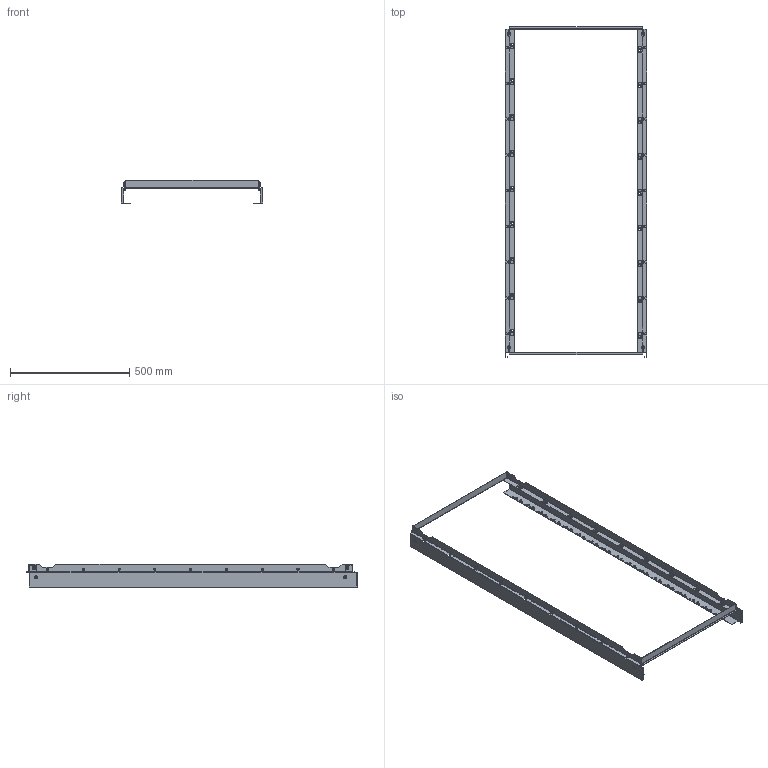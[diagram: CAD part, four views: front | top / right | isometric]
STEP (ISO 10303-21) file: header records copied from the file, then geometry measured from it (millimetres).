
FILE_DESCRIPTION (( 'STEP AP203' ), '1' );
FILE_NAME ('R5STMF146.STEP', '2022-04-13T09:40:58', ( '' ), ( '' ), 'SwSTEP 2.0', 'SolidWorks 2020', '' );
FILE_SCHEMA (( 'CONFIG_CONTROL_DESIGN' ));
Length unit declared in the file: millimetre
Products named in the file (11): M4x8 DIN 965 PH cl.4,8 Zinc_straight; RB.2134.00.00.0_-15; R5STMF146; M6 DIN 6923 cl.8,0 Zinc_straight; M6x12 DIN 965 PH cl.4,8 Zinc_stright; RB.2136.00.00.0_-03; M6 A3400002 Zinc_straight; RB.2135.00.01.0_-07; M4 MGR-MKO-0420_straight; RB.2134.00.00.0_-07; RB.2135.00.00.0 捘_-07
Assembly tree (46 placements, depth 3):
  R5STMF146
    RB.2134.00.00.0_-07
    RB.2135.00.00.0 捘_-07  x2
      RB.2135.00.01.0_-07
      M4 MGR-MKO-0420_straight
    RB.2136.00.00.0_-03  x2
    RB.2134.00.00.0_-15
    M6 A3400002 Zinc_straight  x4
    M6x12 DIN 965 PH cl.4,8 Zinc_stright  x4
    M4x8 DIN 965 PH cl.4,8 Zinc_straight  x18
    M6 DIN 6923 cl.8,0 Zinc_straight  x4
Bounding box: 593.6 x 1386.4 x 96.67 mm (x, y, z)
Volume: 802836 mm3; surface area: 1108053.5 mm2
Topology: 54 solids, 54 shells, 3440 faces, 9038 edges, 5654 vertices
Faces by surface type: plane 1704, cylinder 1264, cone 356, bspline 64, torus 52
Entity records: 53767 total; most frequent: CARTESIAN_POINT 9453, DIRECTION 8960, ORIENTED_EDGE 8712, EDGE_CURVE 4356, AXIS2_PLACEMENT_3D 3117, VERTEX_POINT 2764, LINE 2726, VECTOR 2726
